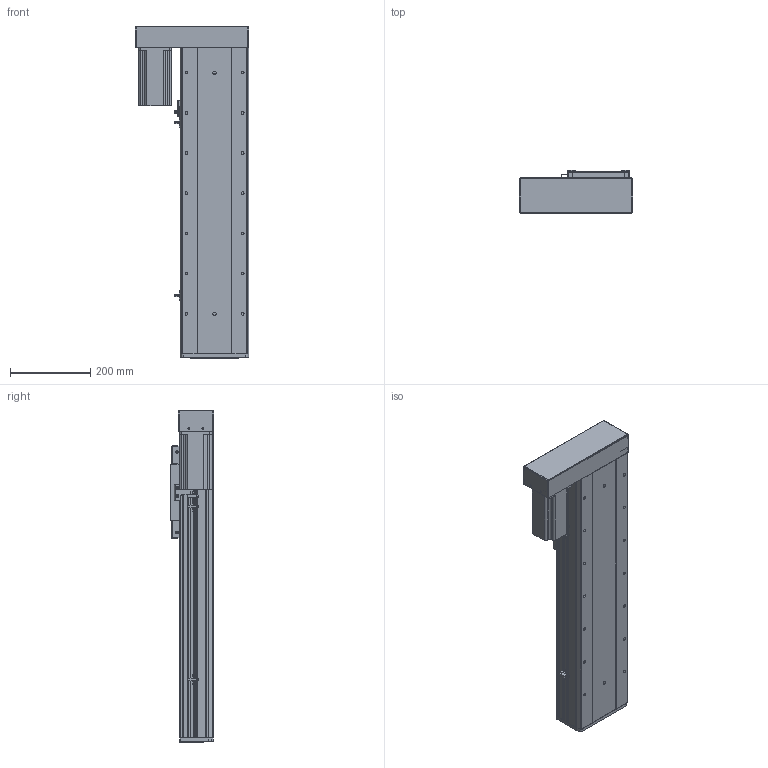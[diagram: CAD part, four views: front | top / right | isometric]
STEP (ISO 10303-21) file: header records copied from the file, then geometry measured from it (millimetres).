
FILE_DESCRIPTION (( 'STEP AP203' ), '1' );
FILE_NAME ('RY170F-L2020-300-LK.SLDASM_450.step', '2021-03-02T09:00:26', ( '盈信电脑' ), ( '东莞市道滘镇水果街19号' ), 'SwSTEP 2.0', 'SolidWorks 2012', '' );
FILE_SCHEMA (( 'CONFIG_CONTROL_DESIGN' ));
Length unit declared in the file: millimetre
Products named in the file (20): RY170F酘衵殏萇儂欶; RY170F-L2020-300-LK.SLDASM_450; 怢湛750W萇儂ㄗ80遺ㄘ; 侐源滅袉蝶; 滅袉蝶18-24; RY170F-酘衵殏萇儂釱; RY170F-蛌殏萇儂假蚾啣; RY170F-詩湍揤踡輸; 覜茼ん672; RY170F-揤踡謫假蚾粣; RY170F俋离覜茼え; RY170F-綴裔啣; RY100F-詩湍揤踡謫; 滅袉蝶18-10; RY170F-300眻蟀倰第奻裔啣-LK_450; RY170F-300眻蟀倰第菁釱-LK_450; RY170F-佪裝臏賑輸20蹟譫; RY170F-丝杆铝滑块连接板; RY170F-300眻蟀祥凄詩湍-LK_450; RY170F-滅鳥奻裔
Assembly tree (24 placements, depth 2):
  RY170F-L2020-300-LK.SLDASM_450
    RY170F-滅鳥奻裔
    RY170F-300眻蟀祥凄詩湍-LK_450
    RY170F-300眻蟀倰第菁釱-LK_450
    RY170F-佪裝臏賑輸20蹟譫
    RY170F-丝杆铝滑块连接板
    RY170F-300眻蟀倰第奻裔啣-LK_450  x2
    滅袉蝶18-10
    RY100F-詩湍揤踡謫
    RY170F-綴裔啣
    覜茼ん672  x3
    RY170F俋离覜茼え
    RY170F-揤踡謫假蚾粣
    RY170F-詩湍揤踡輸  x2
    滅袉蝶18-24
    侐源滅袉蝶  x2
    RY170F-酘衵殏萇儂釱
    RY170F-蛌殏萇儂假蚾啣
    怢湛750W萇儂ㄗ80遺ㄘ
    RY170F酘衵殏萇儂欶
Bounding box: 283 x 107 x 826 mm (x, y, z)
Volume: 5639263.7 mm3; surface area: 1760061.6 mm2
Topology: 24 solids, 24 shells, 1813 faces, 5030 edges, 3198 vertices
Faces by surface type: cylinder 853, plane 760, cone 192, bspline 8
Entity records: 51979 total; most frequent: CARTESIAN_POINT 10522, DIRECTION 8391, ORIENTED_EDGE 8024, EDGE_CURVE 4012, AXIS2_PLACEMENT_3D 3017, VERTEX_POINT 2618, LINE 2357, VECTOR 2357
